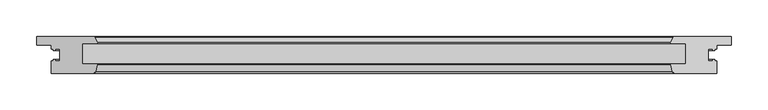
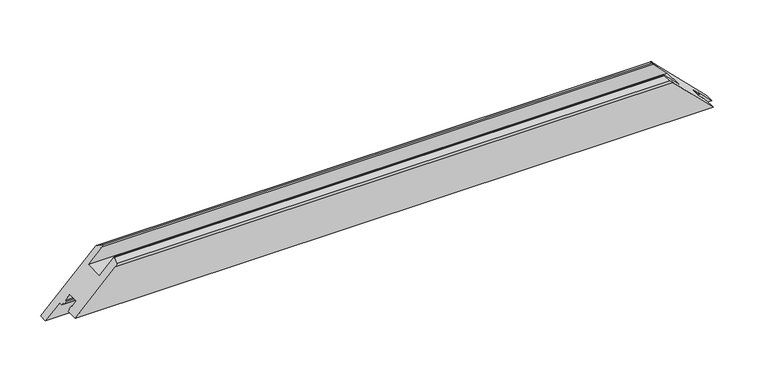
"""IFC4 building model written with IfcOpenShell, lengths in millimetres: proxy geometry, Weiku - Montante - Folha 02.2.01.017 : Weiku - Montante - Folha 02.2.01.017."""

from ifc_helpers import new_model, si_unit, frame, origin, place, context, project, spatial, ellipse_curve, source, transform, mapped, element, save
from ifc_brep_helpers import plane_surface, cylinder_surface, advanced_brep


def generic_models_f9d23053(model_context):
    return source(origin(), model_context, "Body", "AdvancedBrep", [
        advanced_brep(
        [(-452.0, -50.0, 20.0), (452.0, -50.0, 20.0), (394.9997332, -50.0, 77.0002668), (-394.9997332, -50.0, 77.0002668), (-472.0, 0.0, 0.0), (-393.9872264, 0.0, 78.0127736), (393.9872264, 0.0, 78.0127736), (472.0, 0.0, 0.0), (-392.1019557, -47.7764571, 79.8980443), (-389.5170371, -38.1294095, 82.4829629), (-390.0, -37.5, 82.0), (-410.5, -37.5, 61.5), (-410.5, -9.5, 61.5), (-390.7134285, -9.5, 81.2865715), (-389.5512796, -7.617411, 82.4487204), (-393.0932657, -0.5518546, 78.9067343), (-472.0, -11.5, 0.0), (-452.0, -11.5, 20.0), (-452.0, -16.9, 20.0), (-449.8, -16.9, 22.2), (-449.8, -18.9, 22.2), (-447.0, -18.9, 25.0), (-447.0, -16.9, 25.0), (-440.5, -16.9, 31.5), (-440.5, -33.1, 31.5), (-447.0, -33.1, 25.0), (-447.0, -31.1, 25.0), (-449.8, -31.1, 22.2), (-449.8, -33.1, 22.2), (-452.0, -33.1, 20.0), (452.0, -33.1, 20.0), (449.8, -33.1, 22.2), (449.8, -31.1, 22.2), (447.0, -31.1, 25.0), (447.0, -33.1, 25.0), (440.5, -33.1, 31.5), (440.5, -16.9, 31.5), (447.0, -16.9, 25.0), (447.0, -18.9, 25.0), (449.8, -18.9, 22.2), (449.8, -16.9, 22.2), (452.0, -16.9, 20.0), (452.0, -11.5, 20.0), (472.0, -11.5, 0.0), (393.0932657, -0.5518546, 78.9067343), (389.5512796, -7.617411, 82.4487204), (390.7134285, -9.5, 81.2865715), (410.5, -9.5, 61.5), (410.5, -37.5, 61.5), (390.0, -37.5, 82.0), (389.5170371, -38.1294095, 82.4829629), (392.1019557, -47.7764571, 79.8980443)],
        [
            (0, 1),
            (1, 2),
            (2, 3),
            (3, 0),
            (4, 5),
            (5, 6),
            (6, 7),
            (7, 4),
            (3, 8, ellipse_curve(frame((-394.9997332, -47.0, 77.0002668), z_axis=(-0.7071067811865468, 0.0, 0.7071067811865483), x_axis=(-0.7071067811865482, 0.0, -0.7071067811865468)), 4.2426407, 3.0)),
            (8, 9),
            (9, 10, ellipse_curve(frame((-390.0, -38.0, 82.0), z_axis=(-0.7071067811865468, 0.0, 0.7071067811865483), x_axis=(-0.7071067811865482, 0.0, -0.7071067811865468)), 0.7071068, 0.5)),
            (10, 11),
            (11, 12),
            (12, 13),
            (13, 14, ellipse_curve(frame((-390.7134285, -8.2, 81.2865715), z_axis=(-0.7071067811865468, 0.0, 0.7071067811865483), x_axis=(-0.7071067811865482, 0.0, -0.7071067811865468)), 1.8384776, 1.3)),
            (14, 15),
            (15, 5, ellipse_curve(frame((-393.9872264, -1.0, 78.0127736), z_axis=(-0.7071067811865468, 0.0, 0.7071067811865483), x_axis=(-0.7071067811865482, 0.0, -0.7071067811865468)), 1.4142136, 1.0)),
            (4, 16),
            (16, 17),
            (17, 18),
            (18, 19),
            (19, 20),
            (20, 21),
            (21, 22),
            (22, 23),
            (23, 24),
            (24, 25),
            (25, 26),
            (26, 27),
            (27, 28),
            (28, 29),
            (29, 0),
            (1, 30),
            (30, 31),
            (31, 32),
            (32, 33),
            (33, 34),
            (34, 35),
            (35, 36),
            (36, 37),
            (37, 38),
            (38, 39),
            (39, 40),
            (40, 41),
            (41, 42),
            (42, 43),
            (43, 7),
            (6, 44, ellipse_curve(frame((393.9872264, -1.0, 78.0127736), z_axis=(0.7071067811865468, 0.0, 0.7071067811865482), x_axis=(-0.7071067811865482, 0.0, 0.7071067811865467)), 1.4142136, 1.0)),
            (44, 45),
            (45, 46, ellipse_curve(frame((390.7134285, -8.2, 81.2865715), z_axis=(0.7071067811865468, 0.0, 0.7071067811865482), x_axis=(-0.7071067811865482, 0.0, 0.7071067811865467)), 1.8384776, 1.3)),
            (46, 47),
            (47, 48),
            (48, 49),
            (49, 50, ellipse_curve(frame((390.0, -38.0, 82.0), z_axis=(0.7071067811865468, 0.0, 0.7071067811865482), x_axis=(-0.7071067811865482, 0.0, 0.7071067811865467)), 0.7071068, 0.5)),
            (50, 51),
            (51, 2, ellipse_curve(frame((394.9997332, -47.0, 77.0002668), z_axis=(0.7071067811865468, 0.0, 0.7071067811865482), x_axis=(-0.7071067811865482, 0.0, 0.7071067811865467)), 4.2426407, 3.0)),
            (15, 44),
            (14, 45),
            (13, 46),
            (12, 47),
            (11, 48),
            (10, 49),
            (9, 50),
            (8, 51),
            (29, 30),
            (28, 31),
            (27, 32),
            (26, 33),
            (25, 34),
            (24, 35),
            (23, 36),
            (22, 37),
            (21, 38),
            (20, 39),
            (19, 40),
            (18, 41),
            (17, 42),
            (16, 43),
        ],
        [
            plane_surface(frame((-472.0, -50.0, 77.0002668), z_axis=(0.0, -1.0, 0.0), x_axis=(1.0, 0.0, 0.0))),
            plane_surface(frame((-472.0, 0.0, 0.0), z_axis=(0.0, 1.0, 0.0), x_axis=(1.0, 0.0, 0.0))),
            plane_surface(frame((-500.2842712, 0.0, -28.2842712), z_axis=(-0.7071067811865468, 0.0, 0.7071067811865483), x_axis=(0.0, -1.0, 0.0))),
            plane_surface(frame((382.0, 0.0, 90.0), z_axis=(0.7071067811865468, 0.0, 0.7071067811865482), x_axis=(0.0, -1.0, 0.0))),
            cylinder_surface(frame((-472.0, -1.0, 78.0127736), z_axis=(-1.0, 0.0, 0.0), x_axis=(0.0, -1.0, 0.0)), 1.0),
            plane_surface(frame((-472.0, -0.5518546, 78.9067343), z_axis=(0.0, 0.4481453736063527, 0.8939606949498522), x_axis=(1.0, 0.0, 0.0))),
            cylinder_surface(frame((-472.0, -8.2, 81.2865715), z_axis=(-1.0, 0.0, 0.0), x_axis=(0.0, -1.0, 0.0)), 1.3),
            plane_surface(frame((-472.0, -9.5, 81.2865715), z_axis=(0.0, -1.0, 0.0), x_axis=(1.0, 0.0, 0.0))),
            plane_surface(frame((-472.0, -9.5, 61.5), z_axis=(0.0, 0.0, 1.0), x_axis=(1.0, 0.0, 0.0))),
            plane_surface(frame((-472.0, -37.5, 61.5), z_axis=(0.0, 1.0, 0.0), x_axis=(1.0, 0.0, 0.0))),
            cylinder_surface(frame((-472.0, -38.0, 82.0), z_axis=(-1.0, 0.0, 0.0), x_axis=(0.0, -1.0, 0.0)), 0.5),
            plane_surface(frame((-472.0, -38.1294095, 82.4829629), z_axis=(0.0, -0.2588190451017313, 0.9659258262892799), x_axis=(1.0, 0.0, 0.0))),
            cylinder_surface(frame((-472.0, -47.0, 77.0002668), z_axis=(-1.0, 0.0, 0.0), x_axis=(0.0, -1.0, 0.0)), 3.0),
            plane_surface(frame((-472.0, -50.0, 20.0), z_axis=(0.0, 0.0, -1.0), x_axis=(1.0, 0.0, 0.0))),
            plane_surface(frame((-472.0, -33.1, 20.0), z_axis=(0.0, 1.0, 0.0), x_axis=(1.0, 0.0, 0.0))),
            plane_surface(frame((-472.0, -33.1, 22.2), z_axis=(0.0, 0.0, -1.0), x_axis=(1.0, 0.0, 0.0))),
            plane_surface(frame((-472.0, -31.1, 22.2), z_axis=(0.0, 1.0, 0.0), x_axis=(1.0, 0.0, 0.0))),
            plane_surface(frame((-472.0, -31.1, 25.0), z_axis=(0.0, 0.0, 1.0), x_axis=(1.0, 0.0, 0.0))),
            plane_surface(frame((-472.0, -33.1, 25.0), z_axis=(0.0, 1.0, 0.0), x_axis=(1.0, 0.0, 0.0))),
            plane_surface(frame((-472.0, -33.1, 31.5), z_axis=(0.0, 0.0, -1.0), x_axis=(1.0, 0.0, 0.0))),
            plane_surface(frame((-472.0, -16.9, 31.5), z_axis=(0.0, -1.0, 0.0), x_axis=(1.0, 0.0, 0.0))),
            plane_surface(frame((-472.0, -16.9, 25.0), z_axis=(0.0, 0.0, 1.0), x_axis=(1.0, 0.0, 0.0))),
            plane_surface(frame((-472.0, -18.9, 25.0), z_axis=(0.0, -1.0, 0.0), x_axis=(1.0, 0.0, 0.0))),
            plane_surface(frame((-472.0, -18.9, 22.2), z_axis=(0.0, 0.0, -1.0), x_axis=(1.0, 0.0, 0.0))),
            plane_surface(frame((-472.0, -16.9, 22.2), z_axis=(0.0, -1.0, 0.0), x_axis=(1.0, 0.0, 0.0))),
            plane_surface(frame((-472.0, -16.9, 20.0), z_axis=(0.0, 0.0, -1.0), x_axis=(1.0, 0.0, 0.0))),
            plane_surface(frame((-472.0, -11.5, 20.0), z_axis=(0.0, -1.0, 0.0), x_axis=(1.0, 0.0, 0.0))),
            plane_surface(frame((-472.0, -11.5, 0.0), z_axis=(0.0, 0.0, -1.0), x_axis=(1.0, 0.0, 0.0))),
        ],
        [
            (0, [[1, 2, 3, 4]]),
            (1, [[5, 6, 7, 8]]),
            (2, [[9, 10, 11, 12, 13, 14, 15, 16, 17, -5, 18, 19, 20, 21, 22, 23, 24, 25, 26, 27, 28, 29, 30, 31, 32, -4]]),
            (3, [[33, 34, 35, 36, 37, 38, 39, 40, 41, 42, 43, 44, 45, 46, 47, -7, 48, 49, 50, 51, 52, 53, 54, 55, 56, -2]]),
            (4, [[57, -48, -6, -17]]),
            (5, [[58, -49, -57, -16]]),
            (6, [[59, -50, -58, -15]]),
            (7, [[60, -51, -59, -14]]),
            (8, [[61, -52, -60, -13]]),
            (9, [[62, -53, -61, -12]]),
            (10, [[63, -54, -62, -11]]),
            (11, [[64, -55, -63, -10]]),
            (12, [[-3, -56, -64, -9]]),
            (13, [[65, -33, -1, -32]]),
            (14, [[66, -34, -65, -31]]),
            (15, [[67, -35, -66, -30]]),
            (16, [[68, -36, -67, -29]]),
            (17, [[69, -37, -68, -28]]),
            (18, [[70, -38, -69, -27]]),
            (19, [[71, -39, -70, -26]]),
            (20, [[72, -40, -71, -25]]),
            (21, [[73, -41, -72, -24]]),
            (22, [[74, -42, -73, -23]]),
            (23, [[75, -43, -74, -22]]),
            (24, [[76, -44, -75, -21]]),
            (25, [[77, -45, -76, -20]]),
            (26, [[-46, -77, -19, 78]]),
            (27, [[-47, -78, -18, -8]]),
        ],
    ),
    ])


if __name__ == "__main__":
    model = new_model("IFC4")
    model_context = context("Model", 3, world=origin())
    ifc_project = project(units=[si_unit("LENGTHUNIT", "METRE", prefix="MILLI")], contexts=[model_context])
    site = spatial("IfcSite", under=ifc_project)
    building = spatial("IfcBuilding", under=site)
    placement = place(None, origin())
    generic_models_shape = generic_models_f9d23053(model_context)
    element("IfcBuildingElementProxy", 1, Name="Weiku - Montante - Folha 02.2.01.017 : Weiku - Montante - Folha 02.2.01.017", ObjectType="Weiku - Montante - Folha 02.2.01.017 : Weiku - Montante - Folha 02.2.01.017", at=placement, inside=building, context=model_context, shape_type="MappedRepresentation", body=[
        mapped(generic_models_shape, transform((0.0, 0.0, 0.0), x_axis=(1.0, 0.0, 0.0), y_axis=(0.0, 1.0, 0.0), z_axis=(0.0, 0.0, 1.0))),
    ])
    save(model, "model.ifc")
